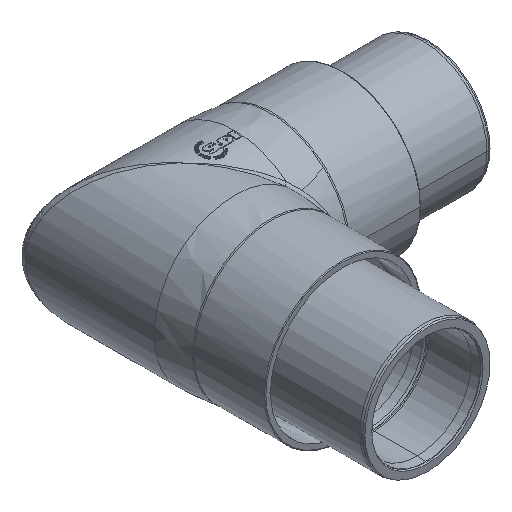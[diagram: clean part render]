
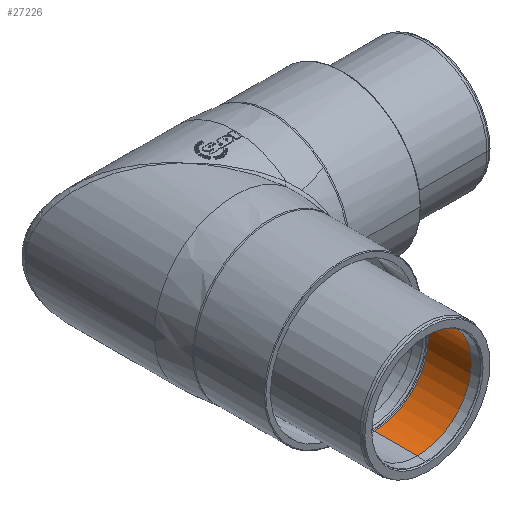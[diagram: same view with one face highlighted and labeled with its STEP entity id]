
A CAD part, isometric view. The second image highlights one B-rep face of the part: STEP entity #27226.
In plain terms, the highlighted cylindrical face has radius 38.25 mm (diameter 76.5 mm), a partial arc.
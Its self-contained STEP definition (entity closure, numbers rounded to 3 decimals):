
#1119 = ORIENTED_EDGE ( 'NONE', *, *, #11121, .F. ) ;
#1388 = CARTESIAN_POINT ( 'NONE',  ( 0., -44.999, 38.25 ) ) ;
#3055 = DIRECTION ( 'NONE',  ( 0., 1., 0. ) ) ;
#3413 = DIRECTION ( 'NONE',  ( 0., 1., 0. ) ) ;
#3664 = DIRECTION ( 'NONE',  ( 0., -1., 0. ) ) ;
#5058 = DIRECTION ( 'NONE',  ( 0., 1., 0. ) ) ;
#5506 = VERTEX_POINT ( 'NONE', #32295 ) ;
#6193 = CARTESIAN_POINT ( 'NONE',  ( 0., -44.999, 0. ) ) ;
#6303 = CARTESIAN_POINT ( 'NONE',  ( 0., -44.999, -38.25 ) ) ;
#6763 = ORIENTED_EDGE ( 'NONE', *, *, #12776, .T. ) ;
#7461 = CIRCLE ( 'NONE', #25835, 38.25 ) ;
#7530 = CIRCLE ( 'NONE', #25910, 38.25 ) ;
#7691 = VECTOR ( 'NONE', #31983, 1000. ) ;
#8618 = LINE ( 'NONE', #6303, #22227 ) ;
#8804 = ORIENTED_EDGE ( 'NONE', *, *, #16994, .T. ) ;
#9141 = CARTESIAN_POINT ( 'NONE',  ( 0., -38.999, 38.25 ) ) ;
#9269 = VERTEX_POINT ( 'NONE', #23507 ) ;
#9594 = ORIENTED_EDGE ( 'NONE', *, *, #32218, .T. ) ;
#11121 = EDGE_CURVE ( 'NONE', #9269, #5506, #8618, .T. ) ;
#12776 = EDGE_CURVE ( 'NONE', #9269, #31963, #7461, .T. ) ;
#15582 = FACE_OUTER_BOUND ( 'NONE', #28387, .T. ) ;
#16703 = AXIS2_PLACEMENT_3D ( 'NONE', #6193, #3055, #18696 ) ;
#16994 = EDGE_CURVE ( 'NONE', #31313, #24415, #7530, .T. ) ;
#17192 = LINE ( 'NONE', #1388, #7691 ) ;
#18696 = DIRECTION ( 'NONE',  ( 0., 0., 1. ) ) ;
#19320 = CARTESIAN_POINT ( 'NONE',  ( 38.25, -8.381, 0. ) ) ;
#19516 = EDGE_CURVE ( 'NONE', #31963, #31313, #17192, .T. ) ;
#19866 = CIRCLE ( 'NONE', #21472, 38.25 ) ;
#21168 = CYLINDRICAL_SURFACE ( 'NONE', #16703, 38.25 ) ;
#21472 = AXIS2_PLACEMENT_3D ( 'NONE', #28910, #3413, #26283 ) ;
#22227 = VECTOR ( 'NONE', #26035, 1000. ) ;
#23398 = ORIENTED_EDGE ( 'NONE', *, *, #19516, .T. ) ;
#23507 = CARTESIAN_POINT ( 'NONE',  ( 0., -38.999, -38.25 ) ) ;
#24396 = CARTESIAN_POINT ( 'NONE',  ( 0., -38.999, 0. ) ) ;
#24415 = VERTEX_POINT ( 'NONE', #19320 ) ;
#25835 = AXIS2_PLACEMENT_3D ( 'NONE', #24396, #3664, #29313 ) ;
#25910 = AXIS2_PLACEMENT_3D ( 'NONE', #30230, #5058, #30063 ) ;
#26035 = DIRECTION ( 'NONE',  ( 0., 1., 0. ) ) ;
#26283 = DIRECTION ( 'NONE',  ( -1., 0., 0. ) ) ;
#26559 = CARTESIAN_POINT ( 'NONE',  ( 0., -8.381, 38.25 ) ) ;
#27226 = ADVANCED_FACE ( 'NONE', ( #15582 ), #21168, .F. ) ;
#28387 = EDGE_LOOP ( 'NONE', ( #1119, #6763, #23398, #8804, #9594 ) ) ;
#28910 = CARTESIAN_POINT ( 'NONE',  ( 0., -8.381, 0. ) ) ;
#29313 = DIRECTION ( 'NONE',  ( 0., 0., 1. ) ) ;
#30063 = DIRECTION ( 'NONE',  ( -1., 0., 0. ) ) ;
#30230 = CARTESIAN_POINT ( 'NONE',  ( 0., -8.381, 0. ) ) ;
#31313 = VERTEX_POINT ( 'NONE', #26559 ) ;
#31963 = VERTEX_POINT ( 'NONE', #9141 ) ;
#31983 = DIRECTION ( 'NONE',  ( 0., 1., 0. ) ) ;
#32218 = EDGE_CURVE ( 'NONE', #24415, #5506, #19866, .T. ) ;
#32295 = CARTESIAN_POINT ( 'NONE',  ( 0., -8.381, -38.25 ) ) ;
